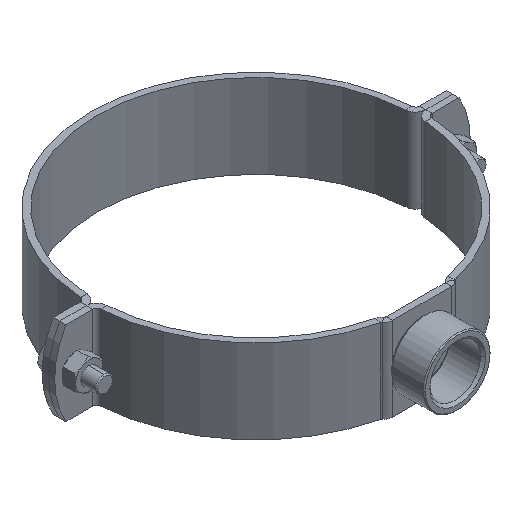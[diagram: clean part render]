
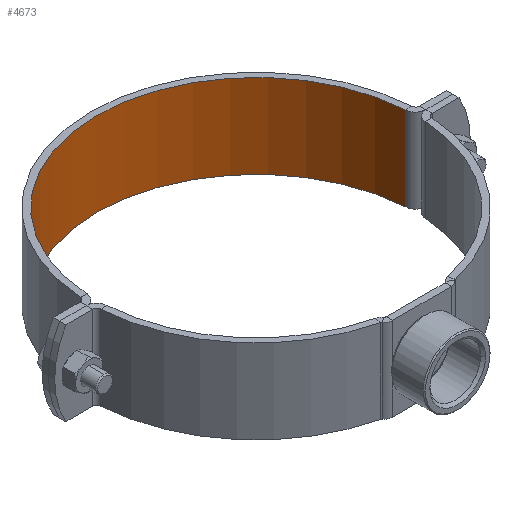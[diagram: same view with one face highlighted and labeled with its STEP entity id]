
A CAD part, isometric view. The second image highlights one B-rep face of the part: STEP entity #4673.
In plain terms, the highlighted cylindrical face has radius 76 mm (diameter 152 mm), a partial arc.
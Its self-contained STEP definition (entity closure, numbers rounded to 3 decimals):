
#116 = LINE ( 'NONE', #1602, #257 ) ;
#257 = VECTOR ( 'NONE', #3063, 1000. ) ;
#323 = VERTEX_POINT ( 'NONE', #4550 ) ;
#339 = CIRCLE ( 'NONE', #4687, 76. ) ;
#525 = CARTESIAN_POINT ( 'NONE',  ( 0., 0., 20. ) ) ;
#652 = ORIENTED_EDGE ( 'NONE', *, *, #3027, .T. ) ;
#909 = LINE ( 'NONE', #2391, #2888 ) ;
#1015 = ORIENTED_EDGE ( 'NONE', *, *, #4035, .T. ) ;
#1043 = DIRECTION ( 'NONE',  ( 0., 0., 1. ) ) ;
#1203 = CARTESIAN_POINT ( 'NONE',  ( 75.855, -4.691, 20. ) ) ;
#1246 = CARTESIAN_POINT ( 'NONE',  ( 0., 0., -20. ) ) ;
#1438 = VERTEX_POINT ( 'NONE', #3451 ) ;
#1602 = CARTESIAN_POINT ( 'NONE',  ( 75.855, -4.691, 20. ) ) ;
#1735 = CARTESIAN_POINT ( 'NONE',  ( 75.855, -4.691, -20. ) ) ;
#1737 = CIRCLE ( 'NONE', #3850, 76. ) ;
#1961 = ORIENTED_EDGE ( 'NONE', *, *, #4715, .F. ) ;
#2003 = DIRECTION ( 'NONE',  ( 0., 0., -1. ) ) ;
#2161 = EDGE_LOOP ( 'NONE', ( #4681, #1961, #652, #1015 ) ) ;
#2347 = EDGE_CURVE ( 'NONE', #323, #4283, #339, .T. ) ;
#2366 = FACE_OUTER_BOUND ( 'NONE', #2161, .T. ) ;
#2391 = CARTESIAN_POINT ( 'NONE',  ( -75.855, -4.691, 20. ) ) ;
#2524 = DIRECTION ( 'NONE',  ( 1., 0., 0. ) ) ;
#2722 = DIRECTION ( 'NONE',  ( 0., 0., 1. ) ) ;
#2888 = VECTOR ( 'NONE', #3894, 1000. ) ;
#3027 = EDGE_CURVE ( 'NONE', #1438, #4606, #1737, .T. ) ;
#3063 = DIRECTION ( 'NONE',  ( 0., 0., -1. ) ) ;
#3451 = CARTESIAN_POINT ( 'NONE',  ( -75.855, -4.691, 20. ) ) ;
#3474 = DIRECTION ( 'NONE',  ( -1., 0., 0. ) ) ;
#3850 = AXIS2_PLACEMENT_3D ( 'NONE', #4500, #1043, #2524 ) ;
#3870 = CYLINDRICAL_SURFACE ( 'NONE', #4501, 76. ) ;
#3894 = DIRECTION ( 'NONE',  ( 0., 0., -1. ) ) ;
#4035 = EDGE_CURVE ( 'NONE', #4606, #4283, #116, .T. ) ;
#4283 = VERTEX_POINT ( 'NONE', #1735 ) ;
#4308 = DIRECTION ( 'NONE',  ( 1., 0., 0. ) ) ;
#4500 = CARTESIAN_POINT ( 'NONE',  ( 0., 0., 20. ) ) ;
#4501 = AXIS2_PLACEMENT_3D ( 'NONE', #525, #2003, #3474 ) ;
#4550 = CARTESIAN_POINT ( 'NONE',  ( -75.855, -4.691, -20. ) ) ;
#4606 = VERTEX_POINT ( 'NONE', #1203 ) ;
#4673 = ADVANCED_FACE ( 'NONE', ( #2366 ), #3870, .F. ) ;
#4681 = ORIENTED_EDGE ( 'NONE', *, *, #2347, .F. ) ;
#4687 = AXIS2_PLACEMENT_3D ( 'NONE', #1246, #2722, #4308 ) ;
#4715 = EDGE_CURVE ( 'NONE', #1438, #323, #909, .T. ) ;
